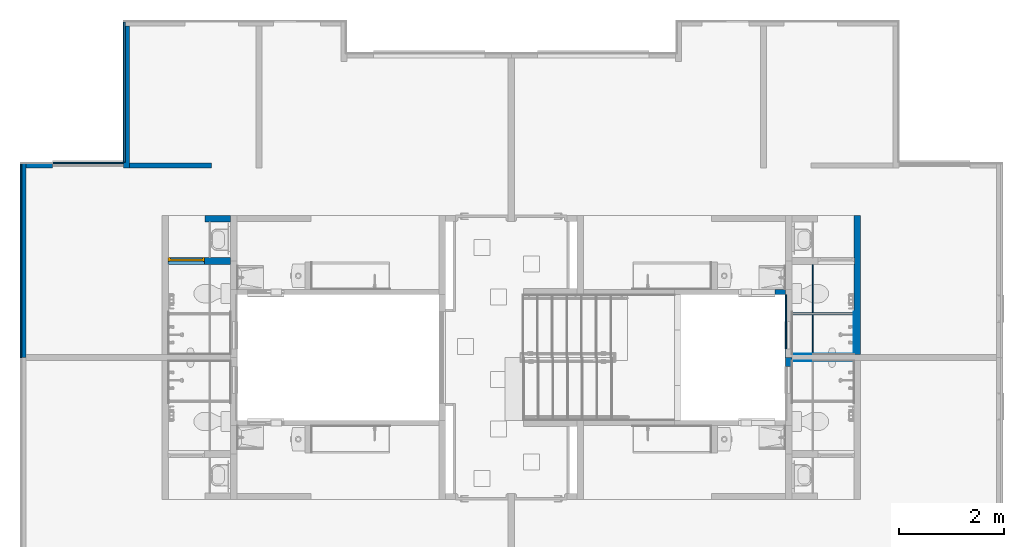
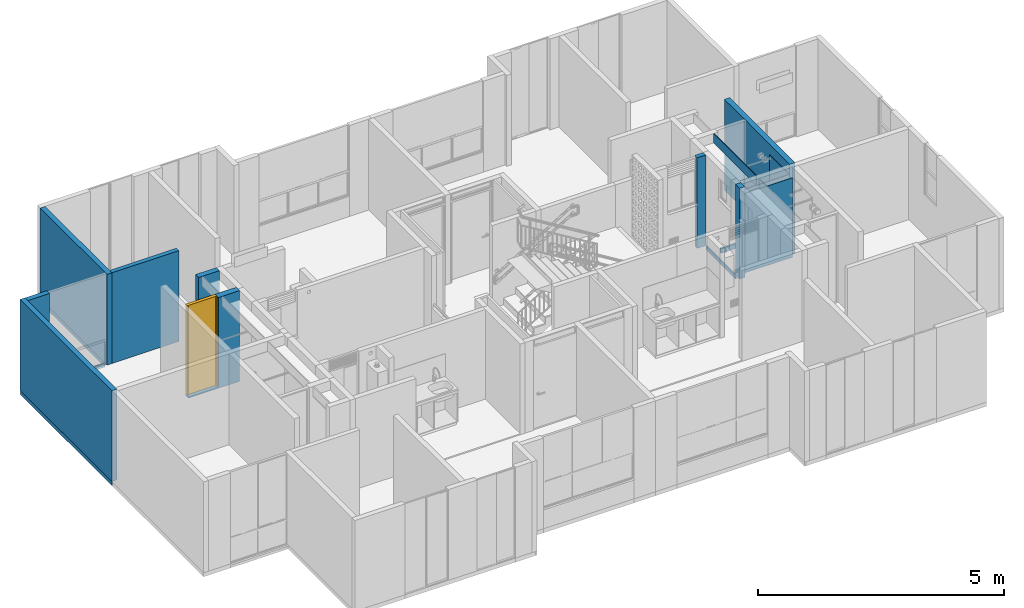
# One storey, part 15 of 48: 18 walls, 1 door, 2 openings.
"""IFC4 building model written with IfcOpenShell, lengths in metres."""

import ifcopenshell
import ifcopenshell.guid

model = None  # the IFC model being written
_history = None  # IfcOwnerHistory: only IFC2X3 demands one
_inside = {}  # id of a spatial element -> (the spatial element, [elements in it])
_under = {}  # id of a project, library or spatial element -> (it, [spatial elements below it])
_declared = {}  # id of a project -> (the project, [libraries it declares])
_typed = {}  # id of a type object -> (the type object, [elements of that type])
_made_of = {}  # id of a material, layer set ... -> (it, [elements and type objects made of it])


def new_model(schema):
    """Start an empty IFC model of exactly this schema.

    Asked for "IFC4X3", IfcOpenShell would pick the latest addendum, in which some entities
    have other attributes; the version numbers below select the first issue.
    IFC2X3 requires an IfcOwnerHistory on every rooted entity: one is made here for all.
    """
    global model, _history
    if schema == "IFC4X3":
        model = ifcopenshell.file(schema_version=(4, 3, 0, 0))
    else:
        model = ifcopenshell.file(schema=schema)
    _inside.clear()
    _under.clear()
    _declared.clear()
    _typed.clear()
    _made_of.clear()
    _history = None
    if model.schema == "IFC2X3":
        org = make("IfcOrganization", Name="unknown")
        user = make(
            "IfcPersonAndOrganization",
            ThePerson=make("IfcPerson", FamilyName="unknown"),
            TheOrganization=org,
        )
        app = make(
            "IfcApplication",
            ApplicationDeveloper=org,
            Version="unknown",
            ApplicationFullName="unknown",
            ApplicationIdentifier="unknown",
        )
        _history = make(
            "IfcOwnerHistory",
            OwningUser=user,
            OwningApplication=app,
            ChangeAction="ADDED",
            CreationDate=0,
        )
    return model


def make(cls, **values):
    """One entity of the class cls with the attributes given. An attribute that is None is left unset."""
    return model.create_entity(
        cls, **{name: value for name, value in values.items() if value is not None}
    )


def entity(cls, *values):
    """Any entity or typed value of the class cls, its attributes in the order of the schema. None: left unset."""
    e = model.create_entity(cls)
    for i, value in enumerate(values):
        if value is not None:
            e[i] = value
    return e


def rooted(cls, **values):
    """An entity with a GlobalId (a new one), such as an element, a storey or a relation."""
    return make(cls, GlobalId=ifcopenshell.guid.new(), OwnerHistory=_history, **values)


def si_unit(unit_type, name, prefix=None):
    """IfcSIUnit, for example si_unit("LENGTHUNIT", "METRE", prefix="MILLI")."""
    return make("IfcSIUnit", UnitType=unit_type, Prefix=prefix, Name=name)


def converted_unit(unit_type, name, factor, base, dimensions=None, offset=None):
    """IfcConversionBasedUnit, such as the inch: factor (a typed value) times the base unit."""
    return make(
        "IfcConversionBasedUnit"
        if offset is None
        else "IfcConversionBasedUnitWithOffset",
        ConversionOffset=offset,
        Dimensions=None
        if dimensions is None
        else entity("IfcDimensionalExponents", *dimensions),
        UnitType=unit_type,
        Name=name,
        ConversionFactor=make(
            "IfcMeasureWithUnit", ValueComponent=factor, UnitComponent=base
        ),
    )


def derived_unit(unit_type, elements):
    """IfcDerivedUnit: a product of units, each with its exponent."""
    return make(
        "IfcDerivedUnit",
        Elements=[
            make("IfcDerivedUnitElement", Unit=unit, Exponent=power)
            for unit, power in elements
        ],
        UnitType=unit_type,
    )


def assignment(units):
    """IfcUnitAssignment: the units of a project."""
    return None if units is None else make("IfcUnitAssignment", Units=units)


def point(xyz):
    """IfcCartesianPoint."""
    return None if xyz is None else make("IfcCartesianPoint", Coordinates=xyz)


def direction(xyz):
    """IfcDirection."""
    return None if xyz is None else make("IfcDirection", DirectionRatios=xyz)


def frame(location, z_axis=None, x_axis=None):
    """IfcAxis2Placement3D, a coordinate frame: its origin and axes. An axis left out is left unset."""
    return make(
        "IfcAxis2Placement3D",
        Location=point(location),
        Axis=direction(z_axis),
        RefDirection=direction(x_axis),
    )


def origin():
    """The frame at (0, 0, 0) with its axes left unset."""
    return frame((0.0, 0.0, 0.0))


def place(relative_to, where):
    """IfcLocalPlacement: puts the frame where relative to a parent placement (None: the world)."""
    return make(
        "IfcLocalPlacement", PlacementRelTo=relative_to, RelativePlacement=where
    )


def context(
    kind, dimensions, precision=None, world=None, true_north=None, identifier=None
):
    """IfcGeometricRepresentationContext, for example the 3D "Model" context."""
    return make(
        "IfcGeometricRepresentationContext",
        ContextIdentifier=identifier,
        ContextType=kind,
        CoordinateSpaceDimension=dimensions,
        Precision=precision,
        WorldCoordinateSystem=world,
        TrueNorth=true_north,
    )


def subcontext(parent, identifier, kind, view, scale=None):
    """IfcGeometricRepresentationSubContext, for example "Body" below "Model"."""
    return make(
        "IfcGeometricRepresentationSubContext",
        ContextIdentifier=identifier,
        ContextType=kind,
        ParentContext=parent,
        TargetScale=scale,
        TargetView=view,
    )


def project(units=None, contexts=None):
    """IfcProject with its units and contexts."""
    return rooted(
        "IfcProject",
        Name="project",
        RepresentationContexts=contexts,
        UnitsInContext=assignment(units),
    )


def spatial(cls, under=None, at=None, **own):
    """A site, building, storey or space (cls), placed at a placement, below another one or the project."""
    s = rooted(cls, ObjectPlacement=at, **own)
    if under is not None:
        _under.setdefault(under.id(), (under, []))[1].append(s)
    return s


def point_list(points):
    """IfcCartesianPointList2D or 3D."""
    cls = (
        "IfcCartesianPointList2D" if len(points[0]) == 2 else "IfcCartesianPointList3D"
    )
    return make(cls, CoordList=points)


def indexed_curve(points, segments=None, self_intersect=None):
    """IfcIndexedPolyCurve: lines and arcs through numbered points (the first is 1)."""
    return make(
        "IfcIndexedPolyCurve",
        Points=point_list(points),
        Segments=segments,
        SelfIntersect=self_intersect,
    )


def outline(outer, holes=None, kind="AREA"):
    """IfcArbitraryClosedProfileDef: a profile drawn as a closed curve; with holes, ...WithVoids."""
    if holes is None:
        return make("IfcArbitraryClosedProfileDef", ProfileType=kind, OuterCurve=outer)
    return make(
        "IfcArbitraryProfileDefWithVoids",
        ProfileType=kind,
        OuterCurve=outer,
        InnerCurves=holes,
    )


def extrude(swept, where, along, depth):
    """IfcExtrudedAreaSolid: the profile swept, set in the frame where, extruded along a direction by depth."""
    return make(
        "IfcExtrudedAreaSolid",
        SweptArea=swept,
        Position=where,
        ExtrudedDirection=direction(along),
        Depth=depth,
    )


def polygons(points, faces, closed=None, point_numbers=None):
    """IfcPolygonalFaceSet: a face is its outer loop, then its inner loops; points numbered from 1."""
    made = []
    for loops in faces:
        if len(loops) == 1:
            made.append(make("IfcIndexedPolygonalFace", CoordIndex=loops[0]))
        else:
            made.append(
                make(
                    "IfcIndexedPolygonalFaceWithVoids",
                    CoordIndex=loops[0],
                    InnerCoordIndices=loops[1:],
                )
            )
    return make(
        "IfcPolygonalFaceSet",
        Coordinates=point_list(points),
        Closed=closed,
        Faces=made,
        PnIndex=point_numbers,
    )


def shape(context_of_items, identifier, shape_type, items):
    """IfcShapeRepresentation: the items that make up one representation, for example the "Body"."""
    return make(
        "IfcShapeRepresentation",
        ContextOfItems=context_of_items,
        RepresentationIdentifier=identifier,
        RepresentationType=shape_type,
        Items=items,
    )


def source(mapping_origin, context_of_items, identifier, shape_type, items):
    """IfcRepresentationMap: a shape defined once, which mapped items show again and again."""
    return make(
        "IfcRepresentationMap",
        MappingOrigin=mapping_origin,
        MappedRepresentation=shape(context_of_items, identifier, shape_type, items),
    )


def transform(
    local_origin,
    x_axis=None,
    y_axis=None,
    z_axis=None,
    scale=None,
    scale2=None,
    scale3=None,
    uniform=True,
):
    """IfcCartesianTransformationOperator3D, or its non-uniform kind. x_axis, y_axis, z_axis: its Axis1, 2, 3."""
    if uniform:
        return make(
            "IfcCartesianTransformationOperator3D",
            Axis1=direction(x_axis),
            Axis2=direction(y_axis),
            LocalOrigin=point(local_origin),
            Scale=scale,
            Axis3=direction(z_axis),
        )
    return make(
        "IfcCartesianTransformationOperator3DnonUniform",
        Axis1=direction(x_axis),
        Axis2=direction(y_axis),
        LocalOrigin=point(local_origin),
        Scale=scale,
        Axis3=direction(z_axis),
        Scale2=scale2,
        Scale3=scale3,
    )


def mapped(mapping_source, mapping_target):
    """IfcMappedItem: shows the shape of a source again, moved by a transform."""
    return make(
        "IfcMappedItem", MappingSource=mapping_source, MappingTarget=mapping_target
    )


def material(Name=None, Category=None):
    """IfcMaterial."""
    return make("IfcMaterial", Name=Name, Category=Category)


def constituent(of_material, Name=None, Category=None, fraction=None):
    """IfcMaterialConstituent: one of the materials an element consists of."""
    return make(
        "IfcMaterialConstituent",
        Name=Name,
        Material=of_material,
        Fraction=fraction,
        Category=Category,
    )


def constituent_set(constituents=None, Name=None):
    """IfcMaterialConstituentSet."""
    return make(
        "IfcMaterialConstituentSet", Name=Name, MaterialConstituents=constituents
    )


def made_of(thing, what):
    """Note that an element or type object is made of a material, layer set ...; save() writes the relation."""
    if what is not None:
        _made_of.setdefault(what.id(), (what, []))[1].append(thing)
    return thing


def type_object(cls, material=None, **own):
    """A type object (cls), such as IfcWallType, which elements share."""
    return made_of(rooted(cls, **own), material)


def type_shapes(of_type, sources):
    """Give a type object the sources (RepresentationMaps) that its elements show as mapped items."""
    of_type.RepresentationMaps = sources


def element(
    cls,
    number,
    at=None,
    inside=None,
    cuts=None,
    type_object=None,
    material=None,
    context=None,
    identifier="Body",
    shape_type=None,
    held_by="IfcProductDefinitionShape",
    body=None,
    shapes=None,
    **own,
):
    """One element of the class cls, such as IfcWall. Its Tag is "e" and its number.

    at: its placement. inside: the storey or other place that contains it. cuts: it is an
    opening in that element (IfcRelVoidsElement). A single representation is given by context,
    identifier, shape_type and body (its items); several are given by shapes. held_by: the class
    of the entity that holds the representations. save() writes the other relations.
    """
    e = rooted(cls, Tag="e%d" % number, ObjectPlacement=at, **own)
    if body is not None:
        shapes = [shape(context, identifier, shape_type, body)]
    if shapes is not None:
        e.Representation = make(held_by, Representations=shapes)
    if inside is not None:
        _inside.setdefault(inside.id(), (inside, []))[1].append(e)
    if cuts is not None:
        rooted(
            "IfcRelVoidsElement", RelatingBuildingElement=cuts, RelatedOpeningElement=e
        )
    if type_object is not None:
        _typed.setdefault(type_object.id(), (type_object, []))[1].append(e)
    return made_of(e, material)


def fill(opening, filler):
    """IfcRelFillsElement: the door or window that sits in an opening."""
    return rooted(
        "IfcRelFillsElement",
        RelatingOpeningElement=opening,
        RelatedBuildingElement=filler,
    )


def aggregate(whole, parts):
    """IfcRelAggregates: a whole, such as a stair, and the parts it consists of."""
    return rooted("IfcRelAggregates", RelatingObject=whole, RelatedObjects=parts)


def save(model, path):
    """Write the relations noted so far, then the file.

    IfcRelAggregates (storeys below a building ...), IfcRelContainedInSpatialStructure (elements
    in a storey), IfcRelDefinesByType, IfcRelAssociatesMaterial and IfcRelDeclares: one each for
    every whole, place, type object, material and project.
    """
    for whole, parts in _under.values():
        aggregate(whole, parts)
    for where, things in _inside.values():
        rooted(
            "IfcRelContainedInSpatialStructure",
            RelatedElements=things,
            RelatingStructure=where,
        )
    for kind, things in _typed.values():
        rooted("IfcRelDefinesByType", RelatedObjects=things, RelatingType=kind)
    for what, things in _made_of.values():
        rooted("IfcRelAssociatesMaterial", RelatedObjects=things, RelatingMaterial=what)
    for by, libraries in _declared.values():
        rooted("IfcRelDeclares", RelatingContext=by, RelatedDefinitions=libraries)
    model.write(path)


model = new_model("IFC4")

# Units and contexts
model_context = context("Model", 3, precision=1e-05, world=origin(), true_north=direction((6.123031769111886e-17, 1.0)))
body_context = subcontext(model_context, "Body", "Model", "MODEL_VIEW")
ifc_project = project(units=[si_unit("LENGTHUNIT", "METRE"), si_unit("AREAUNIT", "SQUARE_METRE"), si_unit("VOLUMEUNIT", "CUBIC_METRE"), converted_unit("PLANEANGLEUNIT", "DEGREE", entity("IfcRatioMeasure", 0.017453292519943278), si_unit("PLANEANGLEUNIT", "RADIAN"), dimensions=[0, 0, 0, 0, 0, 0, 0]), si_unit("MASSUNIT", "GRAM", prefix="KILO"), derived_unit("MASSDENSITYUNIT", [(si_unit("MASSUNIT", "GRAM", prefix="KILO"), 1), (si_unit("LENGTHUNIT", "METRE"), -3)]), derived_unit("IONCONCENTRATIONUNIT", [(si_unit("MASSUNIT", "GRAM", prefix="KILO"), 1), (si_unit("LENGTHUNIT", "METRE"), -3)]), derived_unit("MOMENTOFINERTIAUNIT", [(si_unit("LENGTHUNIT", "METRE"), 4)]), si_unit("TIMEUNIT", "SECOND"), si_unit("FREQUENCYUNIT", "HERTZ"), si_unit("THERMODYNAMICTEMPERATUREUNIT", "DEGREE_CELSIUS"), derived_unit("THERMALTRANSMITTANCEUNIT", [(si_unit("MASSUNIT", "GRAM", prefix="KILO"), 1), (si_unit("THERMODYNAMICTEMPERATUREUNIT", "KELVIN"), -1), (si_unit("TIMEUNIT", "SECOND"), -3)]), derived_unit("THERMALCONDUCTANCEUNIT", [(si_unit("MASSUNIT", "GRAM", prefix="KILO"), 1), (si_unit("THERMODYNAMICTEMPERATUREUNIT", "KELVIN"), -1), (si_unit("TIMEUNIT", "SECOND"), -3), (si_unit("LENGTHUNIT", "METRE"), 1)]), derived_unit("VOLUMETRICFLOWRATEUNIT", [(si_unit("LENGTHUNIT", "METRE"), 3), (si_unit("TIMEUNIT", "SECOND"), -1)]), derived_unit("MASSFLOWRATEUNIT", [(si_unit("MASSUNIT", "GRAM", prefix="KILO"), 1), (si_unit("TIMEUNIT", "SECOND"), -1)]), derived_unit("ROTATIONALFREQUENCYUNIT", [(si_unit("TIMEUNIT", "SECOND"), -1)]), si_unit("ELECTRICCURRENTUNIT", "AMPERE"), si_unit("ELECTRICVOLTAGEUNIT", "VOLT"), si_unit("POWERUNIT", "WATT"), si_unit("FORCEUNIT", "NEWTON", prefix="KILO"), si_unit("ILLUMINANCEUNIT", "LUX"), si_unit("LUMINOUSFLUXUNIT", "LUMEN"), si_unit("LUMINOUSINTENSITYUNIT", "CANDELA"), derived_unit("USERDEFINED", [(si_unit("MASSUNIT", "GRAM", prefix="KILO"), -1), (si_unit("LENGTHUNIT", "METRE"), -2), (si_unit("TIMEUNIT", "SECOND"), 3), (si_unit("LUMINOUSFLUXUNIT", "LUMEN"), 1)]), derived_unit("USERDEFINED", [(si_unit("MASSUNIT", "GRAM", prefix="KILO"), 1), (si_unit("TIMEUNIT", "SECOND"), -3), (si_unit("LENGTHUNIT", "METRE"), 3), (si_unit("ELECTRICCURRENTUNIT", "AMPERE"), -2)]), derived_unit("SOUNDPOWERUNIT", [(si_unit("MASSUNIT", "GRAM", prefix="KILO"), 1), (si_unit("TIMEUNIT", "SECOND"), -3), (si_unit("LENGTHUNIT", "METRE"), 2)]), derived_unit("SOUNDPRESSUREUNIT", [(si_unit("MASSUNIT", "GRAM", prefix="KILO"), 1), (si_unit("LENGTHUNIT", "METRE"), -1), (si_unit("TIMEUNIT", "SECOND"), -2)]), derived_unit("LINEARVELOCITYUNIT", [(si_unit("LENGTHUNIT", "METRE"), 1), (si_unit("TIMEUNIT", "SECOND"), -1)]), si_unit("PRESSUREUNIT", "PASCAL"), derived_unit("USERDEFINED", [(si_unit("MASSUNIT", "GRAM", prefix="KILO"), 1), (si_unit("LENGTHUNIT", "METRE"), -2), (si_unit("TIMEUNIT", "SECOND"), -2)]), derived_unit("LINEARFORCEUNIT", [(si_unit("MASSUNIT", "GRAM", prefix="KILO"), 1), (si_unit("TIMEUNIT", "SECOND"), -2)]), derived_unit("PLANARFORCEUNIT", [(si_unit("MASSUNIT", "GRAM", prefix="KILO"), 1), (si_unit("LENGTHUNIT", "METRE"), -1), (si_unit("TIMEUNIT", "SECOND"), -2)]), derived_unit("SPECIFICHEATCAPACITYUNIT", [(si_unit("THERMODYNAMICTEMPERATUREUNIT", "KELVIN"), -1), (si_unit("LENGTHUNIT", "METRE"), 2), (si_unit("TIMEUNIT", "SECOND"), -2)]), derived_unit("HEATINGVALUEUNIT", [(si_unit("LENGTHUNIT", "METRE"), 2), (si_unit("TIMEUNIT", "SECOND"), -2)]), derived_unit("VAPORPERMEABILITYUNIT", [(si_unit("LENGTHUNIT", "METRE"), -1), (si_unit("TIMEUNIT", "SECOND"), 1)]), derived_unit("DYNAMICVISCOSITYUNIT", [(si_unit("MASSUNIT", "GRAM", prefix="KILO"), 1), (si_unit("TIMEUNIT", "SECOND"), -1), (si_unit("LENGTHUNIT", "METRE"), -1)]), derived_unit("THERMALEXPANSIONCOEFFICIENTUNIT", [(si_unit("THERMODYNAMICTEMPERATUREUNIT", "KELVIN"), -1)]), derived_unit("MODULUSOFELASTICITYUNIT", [(si_unit("MASSUNIT", "GRAM", prefix="KILO"), 1), (si_unit("LENGTHUNIT", "METRE"), -1), (si_unit("TIMEUNIT", "SECOND"), -2)]), derived_unit("ISOTHERMALMOISTURECAPACITYUNIT", [(si_unit("LENGTHUNIT", "METRE"), 3), (si_unit("MASSUNIT", "GRAM", prefix="KILO"), -1)]), derived_unit("MOISTUREDIFFUSIVITYUNIT", [(si_unit("TIMEUNIT", "SECOND"), -1), (si_unit("LENGTHUNIT", "METRE"), 2)])], contexts=[model_context])

# Site, building, storey
site_placement = place(None, origin())
site = spatial("IfcSite", under=ifc_project, at=site_placement, Name="Default", CompositionType="ELEMENT")
building_placement = place(site_placement, origin())
building = spatial("IfcBuilding", under=site, at=building_placement, CompositionType="ELEMENT")
storey_placement = place(building_placement, frame((0.0, 0.0, 7.050000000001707)))
storey = spatial("IfcBuildingStorey", under=building, at=storey_placement, Name="Nivel 4", CompositionType="ELEMENT", Elevation=7.050000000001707)

# Walls
ifc_material_1 = material(Name="Ladrillo claro (Aire)", Category="Materials")
wall_type_1 = type_object("IfcWallType", Name="Basic Wall:B2010 - 0.115m - Muro exterior en mampostería - Ladrillo", PredefinedType="STANDARD")
wall_1_placement = place(storey_placement, frame((0.0, -2.6950000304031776, 0.0), z_axis=(0.0, 0.0, 1.0), x_axis=(0.0, -1.0, 0.0)))
element("IfcWall", 1, at=wall_1_placement, inside=storey, type_object=wall_type_1, material=ifc_material_1, Name="Basic Wall:B2010 - 0.115m - Muro exterior en mampostería - Ladrillo", ObjectType="Basic Wall:B2010 - 0.115m - Muro exterior en mampostería - Ladrillo", PredefinedType="NOTDEFINED", context=body_context, shape_type="SweptSolid", body=[
    extrude(outline(indexed_curve([(3.7299999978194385, 0.0575), (-8.90011336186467e-17, 0.0575), (8.90011336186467e-17, -0.0575), (3.7299999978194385, -0.0575), (3.7299999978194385, 0.0575)], self_intersect=False)), origin(), (0.0, 0.0, 1.0), 2.2500000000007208),
])
wall_2_placement = place(storey_placement, frame((1.9749999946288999, -2.8100000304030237, 0.0), z_axis=(0.0, 0.0, 1.0), x_axis=(0.0, 1.0, 0.0)))
element("IfcWall", 2, at=wall_2_placement, inside=storey, type_object=wall_type_1, material=ifc_material_1, Name="Basic Wall:B2010 - 0.115m - Muro exterior en mampostería - Ladrillo", ObjectType="Basic Wall:B2010 - 0.115m - Muro exterior en mampostería - Ladrillo", PredefinedType="NOTDEFINED", context=body_context, shape_type="SweptSolid", body=[
    extrude(outline(indexed_curve([(2.7150000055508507, 0.05750000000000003), (-1.0301981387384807e-16, 0.057499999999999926), (1.0301981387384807e-16, -0.057499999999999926), (2.7150000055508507, -0.057499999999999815), (2.7150000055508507, 0.05750000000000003)], self_intersect=False)), origin(), (0.0, 0.0, 1.0), 2.2500000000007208),
])
ifc_material_2 = material(Name="LADRILLO CLARO", Category="Materials")
wall_type_2 = type_object("IfcWallType", Name="Basic Wall:B2010 - 0.115m - ME mampostería no estructural - Ladrillo", PredefinedType="STANDARD")
wall_3_placement = place(storey_placement, frame((0.05750000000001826, -2.7525000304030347, 0.0)))
element("IfcWall", 3, at=wall_3_placement, inside=storey, type_object=wall_type_2, material=ifc_material_2, Name="Basic Wall:B2010 - 0.115m - ME mampostería no estructural - Ladrillo", ObjectType="Basic Wall:B2010 - 0.115m - ME mampostería no estructural - Ladrillo", PredefinedType="NOTDEFINED", context=body_context, shape_type="SweptSolid", body=[
    extrude(outline(indexed_curve([(0.5099999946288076, 0.05749999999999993), (-3.859013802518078e-18, 0.057499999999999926), (3.859013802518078e-18, -0.057499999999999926), (0.5099999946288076, -0.05749999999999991), (0.5099999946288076, 0.05749999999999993)], self_intersect=False)), origin(), (0.0, 0.0, 1.0), 2.2500000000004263),
])
ifc_material_3 = material(Name="Concreto (Aire)", Category="Materials")
wall_type_3 = type_object("IfcWallType", Name="Basic Wall:B2010 - 0.10m - Muro interior en concreto", PredefinedType="STANDARD")
wall_4_placement = place(storey_placement, frame((2.032499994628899, -2.7600000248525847, 0.0)))
element("IfcWall", 4, at=wall_4_placement, inside=storey, type_object=wall_type_3, material=ifc_material_3, Name="Basic Wall:B2010 - 0.10m - Muro interior en concreto", ObjectType="Basic Wall:B2010 - 0.10m - Muro interior en concreto", PredefinedType="NOTDEFINED", context=body_context, shape_type="SweptSolid", body=[
    extrude(outline(indexed_curve([(1.5699999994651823, 0.04999999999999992), (6.03923499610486e-18, 0.05), (-6.03923499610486e-18, -0.05), (1.5699999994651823, -0.050000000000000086), (1.5699999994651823, 0.04999999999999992)], self_intersect=False)), origin(), (0.0, 0.0, 1.0), 2.2499999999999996),
])
ifc_material_4 = material(Name="Pañete", Category="Materials")
ifc_constituent_1 = constituent(ifc_material_4, Name="Pañete", Category="Materials")
ifc_constituent_2 = constituent(ifc_material_1, Name="Ladrillo claro (Aire)", Category="Materials")
ifc_constituent_set_1 = constituent_set(constituents=[ifc_constituent_1, ifc_constituent_2], Name="Basic Wall:B2010 - 0.115m - Muro interior en mampostería - Ladrillo + Pañete")
wall_type_4 = type_object("IfcWallType", Name="Basic Wall:B2010 - 0.115m - Muro interior en mampostería - Ladrillo + Pañete", PredefinedType="STANDARD", material=ifc_constituent_set_1)
wall_5_placement = place(storey_placement, frame((3.4724999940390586, -3.7725000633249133, 0.0)))
element("IfcWall", 5, at=wall_5_placement, inside=storey, type_object=wall_type_4, material=ifc_constituent_set_1, Name="Basic Wall:B2010 - 0.115m - Muro interior en mampostería - Ladrillo + Pañete", ObjectType="Basic Wall:B2010 - 0.115m - Muro interior en mampostería - Ladrillo + Pañete", PredefinedType="NOTDEFINED", context=body_context, shape_type="SweptSolid", body=[
    extrude(outline(indexed_curve([(-0.0050000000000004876, -0.24500000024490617), (0.004999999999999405, -0.24500000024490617), (0.005000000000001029, 0.24500000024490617), (-0.004999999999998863, 0.24500000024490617), (-0.0050000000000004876, -0.24500000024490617)], self_intersect=False)), frame((0.24500000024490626, -0.05750000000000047, 0.0), z_axis=(0.0, 0.0, 1.0), x_axis=(0.0, 1.0, 0.0)), (0.0, 0.0, 1.0), 2.2500000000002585),
    extrude(outline(indexed_curve([(-0.057499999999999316, -0.2450000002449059), (0.05750000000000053, -0.24500000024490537), (0.05749999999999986, 0.24500000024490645), (-0.05749999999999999, 0.24500000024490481), (-0.057499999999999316, -0.2450000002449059)], self_intersect=False)), frame((0.24500000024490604, 0.004999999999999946, 0.0), z_axis=(0.0, 0.0, 1.0), x_axis=(0.0, -1.0, 0.0)), (0.0, 0.0, 1.0), 2.2500000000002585),
])

# Wall, opening
wall_6_placement = place(storey_placement, frame((15.929998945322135, -3.7100000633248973, 0.0), z_axis=(0.0, 0.0, 1.0), x_axis=(0.0, -1.0, 0.0)))
wall_6 = element("IfcWall", 6, at=wall_6_placement, inside=storey, type_object=wall_type_4, material=ifc_constituent_set_1, Name="Basic Wall:B2010 - 0.115m - Muro interior en mampostería - Ladrillo + Pañete", ObjectType="Basic Wall:B2010 - 0.115m - Muro interior en mampostería - Ladrillo + Pañete", PredefinedType="NOTDEFINED", context=body_context, shape_type="SweptSolid", body=[
    extrude(outline(indexed_curve([(-0.7550000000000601, -1.1920833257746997), (1.4949999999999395, -1.1920833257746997), (1.4949999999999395, -0.38708332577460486), (-0.7249999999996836, -0.38708332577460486), (-0.7249999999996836, -0.2520833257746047), (1.4949999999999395, -0.2520833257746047), (1.4949999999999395, 1.4629166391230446), (-0.7550000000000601, 1.4629166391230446), (-0.7550000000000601, 0.7129166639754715), (-0.7550000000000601, 0.662916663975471), (-0.7550000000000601, -0.2520833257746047), (-0.7550000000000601, -0.38708332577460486), (-0.7550000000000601, -1.1920833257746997)], self_intersect=False)), frame((1.1920833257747, -0.062499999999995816, 0.7550000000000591), z_axis=(0.0, 1.0, 0.0), x_axis=(0.0, 0.0, 1.0)), (0.0, 0.0, 1.0), 0.009999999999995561),
    extrude(outline(indexed_curve([(-0.05750000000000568, -1.3274999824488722), (0.05749999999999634, -1.3274999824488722), (0.05750000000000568, 1.3274999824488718), (-0.05749999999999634, 1.3274999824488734), (-0.05750000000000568, -1.3274999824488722)], self_intersect=False)), frame((1.3274999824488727, 0.005000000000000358, 0.0), z_axis=(0.0, 0.0, 1.0), x_axis=(0.0, -1.0, 0.0)), (0.0, 0.0, 1.0), 2.2499999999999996),
])
opening_1_placement = place(wall_6_placement, origin())
element("IfcOpeningElement", 7, at=opening_1_placement, cuts=wall_6, Name="Basic Wall:B2010 - 0.115m - Muro interior en mampostería - Ladrillo + Pañete", PredefinedType="OPENING", context=body_context, shape_type="SweptSolid", body=[
    extrude(outline(indexed_curve([(-0.06749999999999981, -1.1099999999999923), (0.06750000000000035, -1.1099999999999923), (0.06750000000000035, 1.1099999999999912), (-0.06749999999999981, 1.1099999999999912), (-0.06749999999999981, -1.1099999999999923)], self_intersect=False)), frame((0.8725000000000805, -0.7524999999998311, 1.1400000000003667), z_axis=(0.0, 1.0, 0.0), x_axis=(1.0, 0.0, 0.0)), (0.0, 0.0, 1.0), 0.7000000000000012),
])

# Wall, opening, door
ifc_constituent_3 = constituent(ifc_material_4, Name="Pañete", Category="Materials")
ifc_constituent_4 = constituent(ifc_material_2, Name="LADRILLO CLARO", Category="Materials")
ifc_constituent_5 = constituent(ifc_material_4, Name="Pañete (2)", Category="Materials")
ifc_constituent_set_2 = constituent_set(constituents=[ifc_constituent_3, ifc_constituent_4, ifc_constituent_5], Name="Basic Wall:B2010 - 0.115m - MI  mampostería no estructural - Pañete + Ladrillo + Pañete")
wall_type_5 = type_object("IfcWallType", Name="Basic Wall:B2010 - 0.115m - MI  mampostería no estructural - Pañete + Ladrillo + Pañete", PredefinedType="STANDARD", material=ifc_constituent_set_2)
wall_7_placement = place(storey_placement, frame((3.962499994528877, -4.582500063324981, 0.0), z_axis=(0.0, 0.0, 1.0), x_axis=(-1.0, 0.0, 0.0)))
wall_7 = element("IfcWall", 8, at=wall_7_placement, inside=storey, type_object=wall_type_5, material=ifc_constituent_set_2, Name="Basic Wall:B2010 - 0.115m - MI  mampostería no estructural - Pañete + Ladrillo + Pañete", ObjectType="Basic Wall:B2010 - 0.115m - MI  mampostería no estructural - Pañete + Ladrillo + Pañete", PredefinedType="NOTDEFINED", context=body_context, shape_type="SweptSolid", body=[
    extrude(outline(indexed_curve([(-1.1325000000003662, -0.6649994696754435), (-1.102500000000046, -0.6649994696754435), (-1.1025000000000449, 0.025000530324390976), (1.1175000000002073, 0.025000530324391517), (1.1175000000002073, 0.10999946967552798), (1.1175000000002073, 0.12999946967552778), (1.1175000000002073, 0.5199994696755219), (-1.1325000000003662, 0.5199994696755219), (-1.1325000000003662, -0.6649994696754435)], self_intersect=False)), frame((0.5199994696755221, 0.06750000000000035, 1.1325000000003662), z_axis=(0.0, -1.0, 0.0), x_axis=(0.0, 0.0, 1.0)), (0.0, 0.0, 1.0), 0.009999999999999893),
    extrude(outline(indexed_curve([(-0.7600000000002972, -0.6249996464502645), (-0.729999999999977, -0.6249996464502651), (-0.729999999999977, 0.06500035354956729), (1.4900000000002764, 0.06500035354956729), (1.4900000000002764, 0.5599992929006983), (-0.7600000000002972, 0.5599992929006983), (-0.7600000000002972, -0.6249996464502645)], self_intersect=False)), frame((0.5599992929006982, -0.05750000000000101, 0.7600000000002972), z_axis=(0.0, -1.0, 0.0), x_axis=(0.0, 0.0, 1.0)), (0.0, 0.0, 1.0), 0.010000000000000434),
    extrude(outline(indexed_curve([(-0.7600000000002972, -0.6316663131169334), (-0.729999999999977, -0.6316663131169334), (-0.729999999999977, 0.06833368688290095), (1.4900000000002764, 0.06833368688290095), (1.4900000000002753, 0.5633326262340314), (-0.7600000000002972, 0.5633326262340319), (-0.7600000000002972, -0.6316663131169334)], self_intersect=False)), frame((0.5633326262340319, 0.057499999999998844, 0.7600000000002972), z_axis=(0.0, -1.0, 0.0), x_axis=(0.0, 0.0, 1.0)), (0.0, 0.0, 1.0), 0.11499999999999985),
])
opening_2_placement = place(wall_7_placement, frame((0.49499893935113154, -0.06749999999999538, 0.029999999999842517)))
opening_2 = element("IfcOpeningElement", 9, at=opening_2_placement, cuts=wall_7, Name="C1030 - Puerta batiente - Madera+Aluminio:C1030 - 0.70 x 2.22 - Puerta batiente - Madera+ Metal:1", PredefinedType="OPENING", context=body_context, shape_type="SweptSolid", body=[
    extrude(outline(indexed_curve([(-2.8961849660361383e-19, 1.3535839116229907e-16), (2.2199999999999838, 1.3535839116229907e-16), (2.2199999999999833, 0.7000000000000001), (1.438182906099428e-16, 0.7000000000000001), (-2.8961849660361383e-19, 1.3535839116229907e-16)], self_intersect=False)), frame((0.0, 0.0, 0.0), z_axis=(0.0, 1.0, 0.0), x_axis=(0.0, 0.0, 1.0)), (0.0, 0.0, 1.0), 0.13499999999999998),
])
ifc_material_5 = material(Name="<Unnamed>")
door_type = type_object("IfcDoorType", Name="C1030 - Puerta batiente - Madera+Aluminio:C1030 - 0.70 x 2.22 - Puerta batiente - Madera+ Metal", OperationType="SINGLE_SWING_RIGHT", PredefinedType="DOOR", material=ifc_material_5)
shared_shape = source(origin(), body_context, "Body", "Tessellation", [
    polygons([(0.030000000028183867, 0.06499999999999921, 0.009880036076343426), (0.6699999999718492, 0.06499999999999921, 0.009880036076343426), (0.6699999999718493, 0.0324999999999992, 0.009880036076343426), (0.030000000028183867, 0.0324999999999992, 0.009880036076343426), (0.030000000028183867, 0.06499999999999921, 2.2050000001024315), (0.030000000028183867, 0.0324999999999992, 2.2050000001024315), (0.6699999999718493, 0.0324999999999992, 2.2050000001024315), (0.6699999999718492, 0.06499999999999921, 2.2050000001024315)], [[[1, 2, 3, 4]], [[5, 1, 4, 6]], [[6, 4, 3, 7]], [[7, 3, 2, 8]], [[8, 2, 1, 5]], [[5, 6, 7, 8]]], closed=True),
    polygons([(0.015000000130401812, 0.0649999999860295, 0.0), (0.015000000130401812, 0.07999999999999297, 0.0), (0.030000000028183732, 0.07999999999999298, 0.0), (0.030000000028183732, 0.04000000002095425, 0.0), (0.045000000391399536, 0.04000000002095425, 0.0), (0.045000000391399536, -1.6919798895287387e-17, 0.0), (0.015000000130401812, -5.075939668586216e-17, 0.0), (0.015000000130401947, 0.007499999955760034, 0.0), (1.651372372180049e-14, 0.0074999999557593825, 0.0), (1.651372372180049e-14, 0.0649999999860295, 0.0), (1.651372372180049e-14, 0.0074999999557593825, 2.2199999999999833), (0.015000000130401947, 0.007499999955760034, 2.2199999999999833), (0.015000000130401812, 0.0649999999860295, 2.2199999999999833), (1.651372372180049e-14, 0.0649999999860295, 2.2199999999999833), (0.6849999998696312, 0.06499999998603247, 0.0), (0.7000000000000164, 0.06499999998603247, 0.0), (0.7000000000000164, 0.007499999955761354, 0.0), (0.6849999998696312, 0.007499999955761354, 0.0), (0.6849999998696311, 0.0, 0.0), (0.6549999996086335, 0.0, 0.0), (0.6549999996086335, 0.04000000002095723, 0.0), (0.6699999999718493, 0.04000000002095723, 0.0), (0.6699999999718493, 0.07999999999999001, 0.0), (0.6849999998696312, 0.07999999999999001, 0.0), (0.7000000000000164, 0.06499999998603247, 2.2199999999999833), (0.6849999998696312, 0.06499999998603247, 2.2199999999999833), (0.6849999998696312, 0.007499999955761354, 2.2199999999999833), (0.7000000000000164, 0.007499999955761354, 2.2199999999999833), (0.6549999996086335, 0.0, 2.189999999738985), (0.6549999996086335, 0.03250000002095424, 2.189999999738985), (0.6549999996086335, 0.03250000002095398, 2.2050000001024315), (0.6549999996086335, 0.04000000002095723, 2.2050000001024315), (0.045000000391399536, 0.04000000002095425, 2.2050000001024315), (0.045000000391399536, 0.03250000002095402, 2.2050000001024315), (0.045000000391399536, 0.032500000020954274, 2.189999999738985), (0.045000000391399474, -1.6919798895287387e-17, 2.189999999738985), (0.6699999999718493, 0.04000000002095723, 2.2050000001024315), (0.6699999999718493, 0.07249999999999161, 2.2050000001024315), (0.6699999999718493, 0.07249999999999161, 2.2199999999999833), (0.6699999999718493, 0.07999999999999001, 2.2199999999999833), (0.030000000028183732, 0.07999999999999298, 2.2199999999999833), (0.030000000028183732, 0.07249999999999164, 2.2199999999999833), (0.030000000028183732, 0.07249999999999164, 2.2050000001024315), (0.030000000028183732, 0.04000000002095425, 2.2050000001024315), (0.6849999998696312, 0.07999999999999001, 2.2199999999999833), (0.6849999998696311, 0.0, 2.2199999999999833), (0.015000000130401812, -5.075939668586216e-17, 2.2199999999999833), (0.015000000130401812, 0.07999999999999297, 2.2199999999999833)], [[[1, 2, 3, 4, 5, 6, 7, 8, 9, 10]], [[11, 9, 8, 12]], [[13, 1, 10, 14]], [[15, 16, 17, 18, 19, 20, 21, 22, 23, 24]], [[25, 16, 15, 26]], [[27, 18, 17, 28]], [[20, 29, 30, 31, 32, 21]], [[5, 33, 34, 35, 36, 6]], [[22, 37, 38, 39, 40, 23]], [[3, 41, 42, 43, 44, 4]], [[28, 17, 16, 25]], [[14, 10, 9, 11]], [[26, 15, 24, 45]], [[45, 24, 23, 40]], [[21, 32, 37, 22]], [[19, 46, 47, 7, 6, 36, 29, 20]], [[46, 19, 18, 27]], [[12, 8, 7, 47]], [[48, 2, 1, 13]], [[26, 45, 40, 39, 42, 41, 48, 13, 14, 11, 12, 47, 46, 27, 28, 25]], [[38, 37, 32, 31, 34, 33, 44, 43]], [[36, 35, 30, 29]], [[4, 44, 33, 5]], [[41, 3, 2, 48]], [[35, 34, 31, 30]], [[43, 42, 39, 38]]], closed=True),
])
type_shapes(door_type, [shared_shape])
door_placement = place(opening_2_placement, origin())
door = element("IfcDoor", 10, at=door_placement, inside=storey, type_object=door_type, material=ifc_material_5, Name="C1030 - Puerta batiente - Madera+Aluminio:C1030 - 0.70 x 2.22 - Puerta batiente - Madera+ Metal", ObjectType="C1030 - Puerta batiente - Madera+Aluminio:C1030 - 0.70 x 2.22 - Puerta batiente - Madera+ Metal", OperationType="NOTDEFINED", OverallHeight=2.2199999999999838, OverallWidth=0.7000000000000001, PredefinedType="DOOR", context=body_context, shape_type="MappedRepresentation", body=[
    mapped(shared_shape, transform((0.0, 0.0, 0.0), scale=1.0)),
])
fill(opening_2, door)

# Walls
ifc_material_6 = material(Name="PINTURA BLANCA PARA EXTERIORES", Category="Materials")
ifc_constituent_6 = constituent(ifc_material_6, Name="PINTURA BLANCA PARA EXTERIORES", Category="Materials")
ifc_material_7 = material(Name="Concreto - Fundido in situ", Category="Materials")
ifc_constituent_7 = constituent(ifc_material_7, Name="Concreto - Fundido in situ", Category="Materials")
ifc_constituent_set_3 = constituent_set(constituents=[ifc_constituent_6, ifc_constituent_7], Name="Basic Wall:B2010 - 0.10m - MI no estructural- Concreto + repello+ pintura blanca")
wall_type_6 = type_object("IfcWallType", Name="Basic Wall:B2010 - 0.10m - MI no estructural- Concreto + repello+ pintura blanca", PredefinedType="STANDARD", material=ifc_constituent_set_3)
wall_8_placement = place(storey_placement, frame((14.557500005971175, -5.175000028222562, 0.0), z_axis=(0.0, 0.0, 1.0), x_axis=(-1.0, 0.0, 0.0)))
element("IfcWall", 11, at=wall_8_placement, inside=storey, type_object=wall_type_6, material=ifc_constituent_set_3, Name="Basic Wall:B2010 - 0.10m - MI no estructural- Concreto + repello+ pintura blanca", ObjectType="Basic Wall:B2010 - 0.10m - MI no estructural- Concreto + repello+ pintura blanca", PredefinedType="NOTDEFINED", context=body_context, shape_type="SweptSolid", body=[
    extrude(outline(indexed_curve([(-0.000500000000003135, -0.10000000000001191), (0.0004999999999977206, -0.10000000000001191), (0.0005000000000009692, 0.10000000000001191), (-0.0004999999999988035, 0.10000000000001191), (-0.000500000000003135, -0.10000000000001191)], self_intersect=False)), frame((0.10000000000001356, 0.04999999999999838, 0.0), z_axis=(0.0, 0.0, 1.0), x_axis=(0.0, -1.0, 0.0)), (0.0, 0.0, 1.0), 2.2499999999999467),
    extrude(outline(indexed_curve([(-0.04999999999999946, -0.10000000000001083), (0.050000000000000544, -0.10000000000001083), (0.04999999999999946, 0.10000000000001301), (-0.04999999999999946, 0.10000000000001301), (-0.04999999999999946, -0.10000000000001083)], self_intersect=False)), frame((0.10000000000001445, -0.0005000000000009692, 0.0), z_axis=(0.0, 0.0, 1.0), x_axis=(0.0, 1.0, 0.0)), (0.0, 0.0, 1.0), 2.2499999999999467),
])
ifc_material_8 = material(Name="Ceramica 0.25m x 0.35m", Category="Materials")
wall_type_7 = type_object("IfcWallType", Name="Basic Wall:C2010 - 0.25 x 0.35 - Enchape cerámico", PredefinedType="STANDARD")
wall_9_placement = place(storey_placement, frame((15.862498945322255, -6.365000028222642, 0.02999999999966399), z_axis=(0.0, 0.0, 1.0), x_axis=(0.0, 1.0, 0.0)))
element("IfcWall", 12, at=wall_9_placement, inside=storey, type_object=wall_type_7, material=ifc_material_8, Name="Basic Wall:C2010 - 0.25 x 0.35 - Enchape cerámico", ObjectType="Basic Wall:C2010 - 0.25 x 0.35 - Enchape cerámico", PredefinedType="NOTDEFINED", context=body_context, shape_type="SweptSolid", body=[
    extrude(outline(indexed_curve([(0.8099999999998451, 0.005000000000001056), (-1.654422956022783e-19, 0.005000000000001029), (1.654422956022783e-19, -0.005000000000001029), (0.8099999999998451, -0.005000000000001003), (0.8099999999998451, 0.005000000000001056)], self_intersect=False)), origin(), (0.0, 0.0, 1.0), 1.9700000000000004),
])
wall_10_placement = place(storey_placement, frame((15.857498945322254, -6.360000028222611, 0.02999999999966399), z_axis=(0.0, 0.0, 1.0), x_axis=(-1.0, 0.0, 0.0)))
element("IfcWall", 13, at=wall_10_placement, inside=storey, type_object=wall_type_7, material=ifc_material_8, Name="Basic Wall:C2010 - 0.25 x 0.35 - Enchape cerámico", ObjectType="Basic Wall:C2010 - 0.25 x 0.35 - Enchape cerámico", PredefinedType="NOTDEFINED", context=body_context, shape_type="SweptSolid", body=[
    extrude(outline(indexed_curve([(1.1649989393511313, 0.004999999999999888), (-9.047226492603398e-18, 0.004999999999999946), (9.047226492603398e-18, -0.004999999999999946), (1.1649989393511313, -0.0050000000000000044), (1.1649989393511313, 0.004999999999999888)], self_intersect=False)), origin(), (0.0, 0.0, 1.0), 1.9700000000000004),
])
wall_11_placement = place(storey_placement, frame((15.857498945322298, -6.490000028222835, 0.02999999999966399), z_axis=(0.0, 0.0, 1.0), x_axis=(-1.0, 0.0, 0.0)))
element("IfcWall", 14, at=wall_11_placement, inside=storey, type_object=wall_type_7, material=ifc_material_8, Name="Basic Wall:C2010 - 0.25 x 0.35 - Enchape cerámico", ObjectType="Basic Wall:C2010 - 0.25 x 0.35 - Enchape cerámico", PredefinedType="NOTDEFINED", context=body_context, shape_type="SweptSolid", body=[
    extrude(outline(indexed_curve([(1.1649989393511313, 0.0050000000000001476), (8.43490309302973e-18, 0.004999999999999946), (-8.43490309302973e-18, -0.004999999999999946), (1.1649989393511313, -0.004999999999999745), (1.1649989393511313, 0.0050000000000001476)], self_intersect=False)), origin(), (0.0, 0.0, 1.0), 1.9700000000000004),
])
ifc_material_9 = material(Name="0 muro divisorio", Category="Materials")
wall_type_8 = type_object("IfcWallType", Name="Basic Wall:B2010 - 0.05m - Poyo para duchas - Concreto", PredefinedType="STANDARD")
wall_12_placement = place(storey_placement, frame((15.867498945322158, -5.5900000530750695, 0.0), z_axis=(0.0, 0.0, 1.0), x_axis=(-1.0, 0.0, 0.0)))
element("IfcWall", 15, at=wall_12_placement, inside=storey, type_object=wall_type_8, material=ifc_material_9, Name="Basic Wall:B2010 - 0.05m - Poyo para duchas - Concreto", ObjectType="Basic Wall:B2010 - 0.05m - Poyo para duchas - Concreto", PredefinedType="NOTDEFINED", context=body_context, shape_type="SweptSolid", body=[
    extrude(outline(indexed_curve([(1.1749989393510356, 0.02499999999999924), (-2.4304076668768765e-16, 0.02499999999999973), (2.4304076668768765e-16, -0.02499999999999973), (1.1749989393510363, -0.025000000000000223), (1.1749989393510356, 0.02499999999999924)], self_intersect=False)), origin(), (0.0, 0.0, 1.0), 0.11000000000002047),
])
ifc_material_10 = material(Name="Plasterboard", Category="Materials")
wall_type_9 = type_object("IfcWallType", Name="Basic Wall:C1070 - 0.02m - Plafón - Drywall", PredefinedType="STANDARD")
wall_13_placement = place(storey_placement, frame((15.082500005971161, -6.365000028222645, 2.0199999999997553), z_axis=(0.0, 0.0, 1.0), x_axis=(0.0, 1.0, 0.0)))
element("IfcWall", 16, at=wall_13_placement, inside=storey, type_object=wall_type_9, material=ifc_material_10, Name="Basic Wall:C1070 - 0.02m - Plafón - Drywall", ObjectType="Basic Wall:C1070 - 0.02m - Plafón - Drywall", PredefinedType="NOTDEFINED", context=body_context, shape_type="SweptSolid", body=[
    extrude(outline(indexed_curve([(1.7149999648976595, 0.010000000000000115), (-7.706224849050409e-17, 0.009999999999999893), (7.706224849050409e-17, -0.009999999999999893), (1.7149999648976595, -0.00999999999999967), (1.7149999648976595, 0.010000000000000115)], self_intersect=False)), origin(), (0.0, 0.0, 1.0), 0.23000000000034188),
])
ifc_constituent_8 = constituent(ifc_material_4, Name="Pañete", Category="Materials")
ifc_constituent_9 = constituent(ifc_material_2, Name="LADRILLO CLARO", Category="Materials")
ifc_constituent_set_4 = constituent_set(constituents=[ifc_constituent_8, ifc_constituent_9], Name="Basic Wall:B2010 - 0.115m - MI  mampostería no estructural - Ladrillo + Pañete")
wall_type_10 = type_object("IfcWallType", Name="Basic Wall:B2010 - 0.115m - MI  mampostería no estructural - Ladrillo + Pañete", PredefinedType="STANDARD", material=ifc_constituent_set_4)
wall_14_placement = place(storey_placement, frame((14.620000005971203, -6.592187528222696, 0.0), z_axis=(0.0, 0.0, 1.0), x_axis=(0.0, 1.0, 0.0)))
element("IfcWall", 17, at=wall_14_placement, inside=storey, type_object=wall_type_10, material=ifc_constituent_set_4, Name="Basic Wall:B2010 - 0.115m - MI  mampostería no estructural - Ladrillo + Pañete", ObjectType="Basic Wall:B2010 - 0.115m - MI  mampostería no estructural - Ladrillo + Pañete", PredefinedType="NOTDEFINED", context=body_context, shape_type="SweptSolid", body=[
    extrude(outline(indexed_curve([(-0.004999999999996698, -0.08359375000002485), (0.005000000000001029, -0.08359375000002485), (0.004999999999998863, 0.08359375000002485), (-0.004999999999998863, 0.08359375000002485), (-0.004999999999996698, -0.08359375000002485)], self_intersect=False)), frame((0.08359375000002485, -0.057500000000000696, 0.0), z_axis=(0.0, 0.0, 1.0), x_axis=(0.0, 1.0, 0.0)), (0.0, 0.0, 1.0), 2.2500000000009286),
    extrude(outline(indexed_curve([(-0.05750000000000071, -0.08359375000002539), (0.0575000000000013, -0.08359375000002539), (0.05750000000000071, 0.08359375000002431), (-0.0575000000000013, 0.08359375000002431), (-0.05750000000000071, -0.08359375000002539)], self_intersect=False)), frame((0.08359375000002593, 0.005000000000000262, 0.0), z_axis=(0.0, 0.0, 1.0), x_axis=(0.0, -1.0, 0.0)), (0.0, 0.0, 1.0), 2.2500000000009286),
])
wall_type_11 = type_object("IfcWallType", Name="Basic Wall:B2010 - 0.03m - ME enchape  no estructural - Ladrillo", PredefinedType="STANDARD")
wall_15_placement = place(storey_placement, frame((1.932499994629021, -0.010000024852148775, -0.10000000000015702), z_axis=(0.0, 0.0, 1.0), x_axis=(0.0, -1.0, 0.0)))
element("IfcWall", 18, at=wall_15_placement, inside=storey, type_object=wall_type_11, material=ifc_material_2, Name="Basic Wall:B2010 - 0.03m - ME enchape  no estructural - Ladrillo", ObjectType="Basic Wall:B2010 - 0.03m - ME enchape  no estructural - Ladrillo", PredefinedType="NOTDEFINED", context=body_context, shape_type="SweptSolid", body=[
    extrude(outline(indexed_curve([(2.6836602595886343, 0.015000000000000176), (1.2417119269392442e-18, 0.015000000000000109), (-1.2417119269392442e-18, -0.015000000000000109), (2.6836602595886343, -0.015000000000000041), (2.6836602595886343, 0.015000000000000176)], self_intersect=False)), origin(), (0.0, 0.0, 1.0), 0.09999999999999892),
])
wall_16_placement = place(storey_placement, frame((-0.04249999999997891, -2.7250000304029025, -0.10000000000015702), z_axis=(0.0, 0.0, 1.0), x_axis=(0.0, -1.0, 0.0)))
element("IfcWall", 19, at=wall_16_placement, inside=storey, type_object=wall_type_11, material=ifc_material_2, Name="Basic Wall:B2010 - 0.03m - ME enchape  no estructural - Ladrillo", ObjectType="Basic Wall:B2010 - 0.03m - ME enchape  no estructural - Ladrillo", PredefinedType="NOTDEFINED", context=body_context, shape_type="SweptSolid", body=[
    extrude(outline(indexed_curve([(3.699999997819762, 0.015), (-2.796678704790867e-17, 0.015), (2.796678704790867e-17, -0.015), (3.699999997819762, -0.015000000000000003), (3.699999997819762, 0.015)], self_intersect=False)), origin(), (0.0, 0.0, 1.0), 0.09999999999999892),
])
wall_17_placement = place(storey_placement, frame((0.5674999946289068, -2.710000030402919, -0.10000000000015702)))
element("IfcWall", 20, at=wall_17_placement, inside=storey, type_object=wall_type_11, material=ifc_material_2, Name="Basic Wall:B2010 - 0.03m - ME enchape  no estructural - Ladrillo", ObjectType="Basic Wall:B2010 - 0.03m - ME enchape  no estructural - Ladrillo", PredefinedType="NOTDEFINED", context=body_context, shape_type="SweptSolid", body=[
    extrude(outline(indexed_curve([(1.3500000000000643, 0.01499999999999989), (2.443197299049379e-18, 0.014999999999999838), (-2.443197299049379e-18, -0.014999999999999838), (1.3500000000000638, -0.014999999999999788), (1.3500000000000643, 0.01499999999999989)], self_intersect=False)), origin(), (0.0, 0.0, 1.0), 0.09999999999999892),
])
wall_18_placement = place(storey_placement, frame((14.57250000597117, -5.2250000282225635, -0.10000000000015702), z_axis=(0.0, 0.0, 1.0), x_axis=(0.0, -1.0, 0.0)))
element("IfcWall", 21, at=wall_18_placement, inside=storey, type_object=wall_type_11, material=ifc_material_2, Name="Basic Wall:B2010 - 0.03m - ME enchape  no estructural - Ladrillo", ObjectType="Basic Wall:B2010 - 0.03m - ME enchape  no estructural - Ladrillo", PredefinedType="NOTDEFINED", context=body_context, shape_type="SweptSolid", body=[
    extrude(outline(indexed_curve([(1.2000000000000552, 0.015000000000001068), (-2.890864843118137e-17, 0.015000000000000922), (2.890864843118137e-17, -0.015000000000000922), (1.2000000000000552, -0.015000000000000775), (1.2000000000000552, 0.015000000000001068)], self_intersect=False)), origin(), (0.0, 0.0, 1.0), 0.09999999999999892),
])

save(model, "model.ifc")
